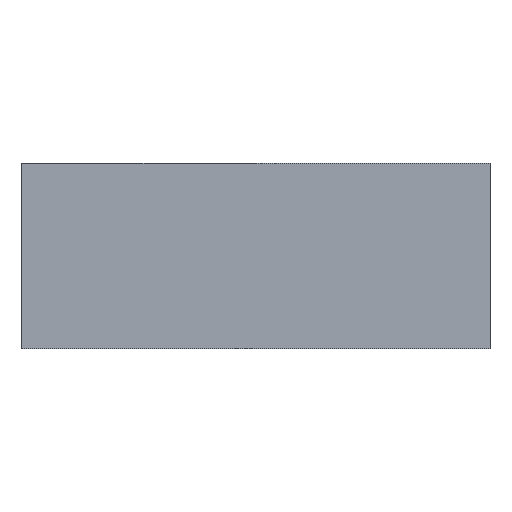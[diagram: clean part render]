
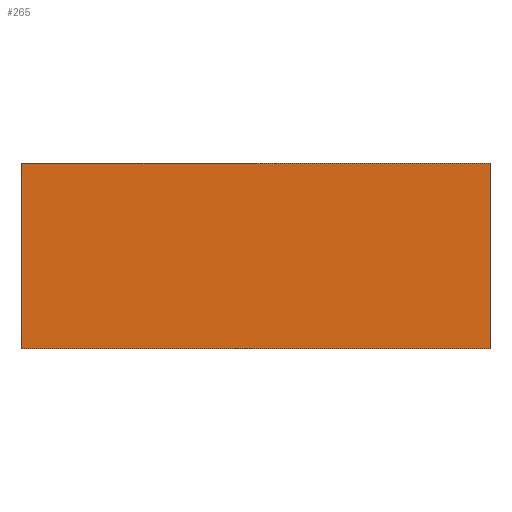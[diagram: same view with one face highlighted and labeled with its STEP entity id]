
A CAD part, front view. The second image highlights one B-rep face of the part: STEP entity #265.
In plain terms, the highlighted planar face has unit normal (0, -1, 0).
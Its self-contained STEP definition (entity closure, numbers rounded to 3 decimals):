
#30 = VECTOR ( 'NONE', #550, 1000. ) ;
#31 = LINE ( 'NONE', #549, #30 ) ;
#37 = ORIENTED_EDGE ( 'NONE', *, *, #322, .F. ) ;
#93 = ORIENTED_EDGE ( 'NONE', *, *, #325, .F. ) ;
#94 = ORIENTED_EDGE ( 'NONE', *, *, #314, .T. ) ;
#125 = ORIENTED_EDGE ( 'NONE', *, *, #338, .T. ) ;
#156 = VECTOR ( 'NONE', #529, 1000. ) ;
#182 = VECTOR ( 'NONE', #527, 1000. ) ;
#183 = LINE ( 'NONE', #528, #156 ) ;
#198 = EDGE_LOOP ( 'NONE', ( #94, #93, #37, #125 ) ) ;
#211 = FACE_OUTER_BOUND ( 'NONE', #198, .T. ) ;
#239 = LINE ( 'NONE', #510, #250 ) ;
#245 = LINE ( 'NONE', #518, #182 ) ;
#250 = VECTOR ( 'NONE', #517, 1000. ) ;
#265 = ADVANCED_FACE ( 'NONE', ( #211 ), #416, .F. ) ;
#295 = AXIS2_PLACEMENT_3D ( 'NONE', #420, #426, #427 ) ;
#314 = EDGE_CURVE ( 'NONE', #369, #388, #239, .T. ) ;
#322 = EDGE_CURVE ( 'NONE', #379, #370, #245, .T. ) ;
#325 = EDGE_CURVE ( 'NONE', #370, #388, #183, .T. ) ;
#338 = EDGE_CURVE ( 'NONE', #379, #369, #31, .T. ) ;
#369 = VERTEX_POINT ( 'NONE', #568 ) ;
#370 = VERTEX_POINT ( 'NONE', #569 ) ;
#379 = VERTEX_POINT ( 'NONE', #578 ) ;
#388 = VERTEX_POINT ( 'NONE', #587 ) ;
#416 = PLANE ( 'NONE',  #295 ) ;
#420 = CARTESIAN_POINT ( 'NONE',  ( -151., 0., 120. ) ) ;
#426 = DIRECTION ( 'NONE',  ( 0., 1., 0. ) ) ;
#427 = DIRECTION ( 'NONE',  ( -1., 0., 0. ) ) ;
#510 = CARTESIAN_POINT ( 'NONE',  ( -151., 0., 0. ) ) ;
#517 = DIRECTION ( 'NONE',  ( 1., 0., 0. ) ) ;
#518 = CARTESIAN_POINT ( 'NONE',  ( -151., 0., 120. ) ) ;
#527 = DIRECTION ( 'NONE',  ( 1., 0., 0. ) ) ;
#528 = CARTESIAN_POINT ( 'NONE',  ( 151., 0., 120. ) ) ;
#529 = DIRECTION ( 'NONE',  ( 0., 0., -1. ) ) ;
#549 = CARTESIAN_POINT ( 'NONE',  ( -151., 0., 120. ) ) ;
#550 = DIRECTION ( 'NONE',  ( 0., 0., -1. ) ) ;
#568 = CARTESIAN_POINT ( 'NONE',  ( -151., 0., 0. ) ) ;
#569 = CARTESIAN_POINT ( 'NONE',  ( 151., 0., 120. ) ) ;
#578 = CARTESIAN_POINT ( 'NONE',  ( -151., 0., 120. ) ) ;
#587 = CARTESIAN_POINT ( 'NONE',  ( 151., 0., 0. ) ) ;
